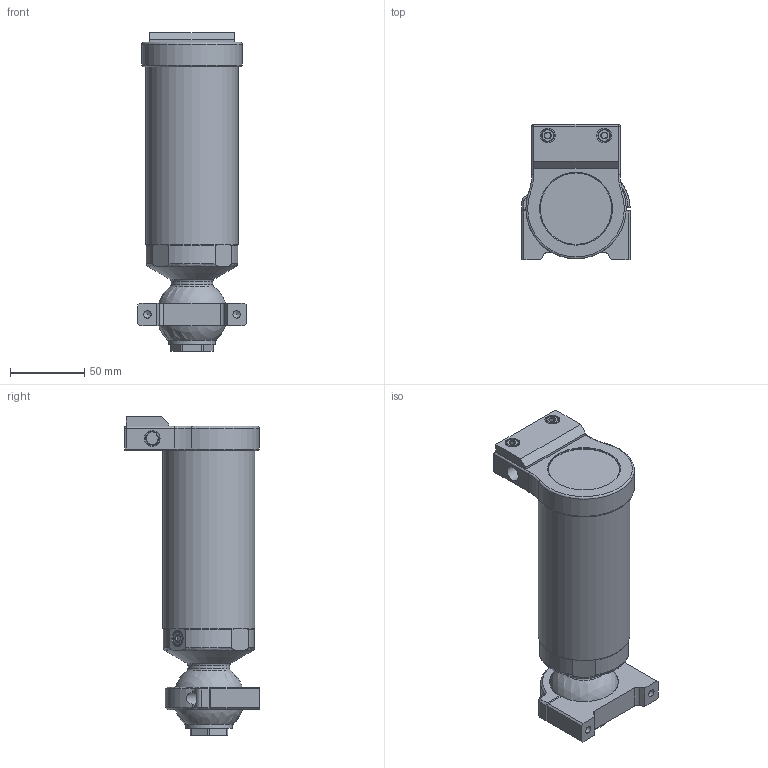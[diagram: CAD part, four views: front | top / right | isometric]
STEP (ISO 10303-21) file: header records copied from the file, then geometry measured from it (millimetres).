
FILE_DESCRIPTION (( 'STEP AP203' ), '1' );
FILE_NAME ('24C-EC.STEP', '2023-02-07T11:54:19', ( '' ), ( '' ), 'SwSTEP 2.0', 'SolidWorks 2021', '' );
FILE_SCHEMA (( 'CONFIG_CONTROL_DESIGN' ));
Length unit declared in the file: inch
Products named in the file (18): 9452K141_Expanded; 91292A108_91292A108; 91292A125_91292A125; 400119; 200394; PG21-I01; 91292A124_91292A124; 500119; 200396; 200393; 200398; 200395; 4452K541; 200318; 200397; 200280; 400118; 24C-EC
Assembly tree (23 placements, depth 2):
  24C-EC
    200318
    200280
    200393
    200394
    200395
    200397
    200396
    200398
    400118
    400119
    500119
    PG21-I01
    4452K541  x3
    9452K141_Expanded
    91292A124_91292A124  x2
    91292A108_91292A108  x3
    91292A125_91292A125  x2
Bounding box: 73.02 x 91.2 x 215.11 mm (x, y, z)
Volume: 282393.6 mm3; surface area: 143961.4 mm2
Topology: 24 solids, 24 shells, 761 faces, 1956 edges, 1262 vertices
Faces by surface type: plane 313, cylinder 259, cone 143, bspline 27, torus 13, sphere 6
Full cylindrical faces by diameter (mm): 3.3 x4, 4.2 x4, 4.216 x3, 5 x2, 5.5 x4, 5.8 x2, 6.35 x2, 7 x3, 8.5 x4, 9.065 x3, 10 x4, 20.764 x1, 23.495 x1, 28.386 x1, 29.718 x1, 30.2 x1, 31.369 x1, 48.26 x2, 55.55 x1, 57.15 x1, 58.166 x1, 59.182 x1, 59.309 x1, 59.69 x2, 59.842 x1, 59.944 x1, 61.976 x1, 62.23 x1, 62.992 x1, 64.77 x1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
Entity records: 27514 total; most frequent: CARTESIAN_POINT 10829, DIRECTION 3105, ORIENTED_EDGE 2890, EDGE_CURVE 1445, AXIS2_PLACEMENT_3D 1210, VERTEX_POINT 974, EDGE_LOOP 787, LINE 685
